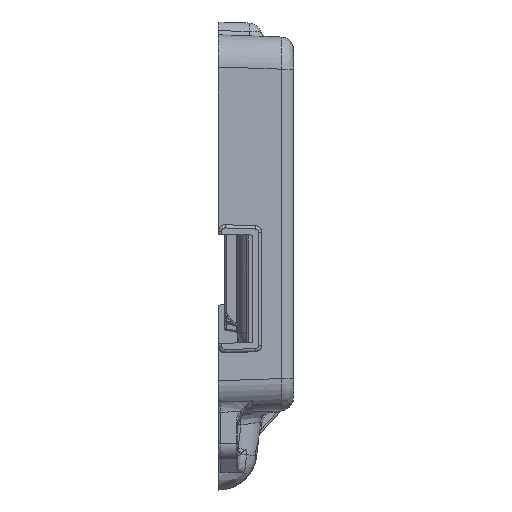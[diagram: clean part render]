
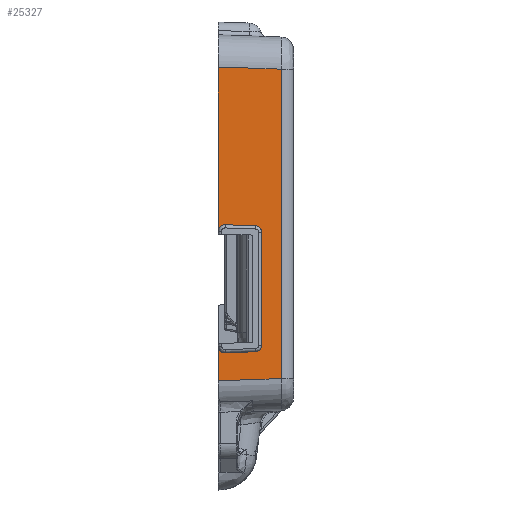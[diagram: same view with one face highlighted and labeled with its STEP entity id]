
A CAD part, left-side view. The second image highlights one B-rep face of the part: STEP entity #25327.
In plain terms, the highlighted planar face has unit normal (-0.999, -0.035, 0).
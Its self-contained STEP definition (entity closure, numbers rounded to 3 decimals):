
#1678=ELLIPSE('',#27179,1.001,1.);
#1679=ELLIPSE('',#27182,1.001,1.);
#1726=ELLIPSE('',#27387,1.001,1.);
#1782=ELLIPSE('',#27618,1.001,1.);
#2276=PLANE('',#27619);
#3230=FACE_OUTER_BOUND('',#4813,.T.);
#4813=EDGE_LOOP('',(#20261,#20262,#20263,#20264,#20265,#20266,#20267,#20268,
#20269,#20270,#20271,#20272));
#5919=LINE('',#38370,#7573);
#6493=LINE('',#44406,#8147);
#6496=LINE('',#44414,#8150);
#6499=LINE('',#44419,#8153);
#6698=LINE('',#48580,#8352);
#6699=LINE('',#48582,#8353);
#6700=LINE('',#48584,#8354);
#6701=LINE('',#48585,#8355);
#7573=VECTOR('',#29770,10.);
#8147=VECTOR('',#31892,10.);
#8150=VECTOR('',#31901,10.);
#8153=VECTOR('',#31906,10.);
#8352=VECTOR('',#32975,10.);
#8353=VECTOR('',#32976,10.);
#8354=VECTOR('',#32977,10.);
#8355=VECTOR('',#32978,10.);
#10180=VERTEX_POINT('',#38367);
#10181=VERTEX_POINT('',#38369);
#11024=VERTEX_POINT('',#44399);
#11025=VERTEX_POINT('',#44401);
#11026=VERTEX_POINT('',#44405);
#11027=VERTEX_POINT('',#44409);
#11028=VERTEX_POINT('',#44413);
#11029=VERTEX_POINT('',#44417);
#11241=VERTEX_POINT('',#46767);
#11471=VERTEX_POINT('',#48579);
#11472=VERTEX_POINT('',#48581);
#11473=VERTEX_POINT('',#48583);
#12734=EDGE_CURVE('',#10181,#10180,#5919,.T.);
#13961=EDGE_CURVE('',#11024,#11025,#1678,.F.);
#13963=EDGE_CURVE('',#11026,#11025,#6493,.T.);
#13965=EDGE_CURVE('',#11026,#11027,#1679,.F.);
#13967=EDGE_CURVE('',#11028,#11027,#6496,.T.);
#13970=EDGE_CURVE('',#11024,#11029,#6499,.T.);
#14291=EDGE_CURVE('',#11028,#11241,#1726,.F.);
#14625=EDGE_CURVE('',#10181,#11029,#1782,.F.);
#14626=EDGE_CURVE('',#11471,#10180,#6698,.T.);
#14627=EDGE_CURVE('',#11472,#11471,#6699,.T.);
#14628=EDGE_CURVE('',#11473,#11472,#6700,.T.);
#14629=EDGE_CURVE('',#11473,#11241,#6701,.T.);
#20261=ORIENTED_EDGE('',*,*,#13970,.T.);
#20262=ORIENTED_EDGE('',*,*,#14625,.F.);
#20263=ORIENTED_EDGE('',*,*,#12734,.T.);
#20264=ORIENTED_EDGE('',*,*,#14626,.F.);
#20265=ORIENTED_EDGE('',*,*,#14627,.F.);
#20266=ORIENTED_EDGE('',*,*,#14628,.F.);
#20267=ORIENTED_EDGE('',*,*,#14629,.T.);
#20268=ORIENTED_EDGE('',*,*,#14291,.F.);
#20269=ORIENTED_EDGE('',*,*,#13967,.T.);
#20270=ORIENTED_EDGE('',*,*,#13965,.F.);
#20271=ORIENTED_EDGE('',*,*,#13963,.T.);
#20272=ORIENTED_EDGE('',*,*,#13961,.F.);
#25327=ADVANCED_FACE('',(#3230),#2276,.T.);
#27179=AXIS2_PLACEMENT_3D('',#44402,#31887,#31888);
#27182=AXIS2_PLACEMENT_3D('',#44410,#31896,#31897);
#27387=AXIS2_PLACEMENT_3D('',#46768,#32390,#32391);
#27618=AXIS2_PLACEMENT_3D('',#48577,#32971,#32972);
#27619=AXIS2_PLACEMENT_3D('',#48578,#32973,#32974);
#29770=DIRECTION('',(0.,0.,-1.));
#31887=DIRECTION('center_axis',(0.999,0.035,0.));
#31888=DIRECTION('ref_axis',(0.035,-0.999,0.));
#31892=DIRECTION('',(0.,0.,-1.));
#31896=DIRECTION('center_axis',(0.999,0.035,0.));
#31897=DIRECTION('ref_axis',(0.035,-0.999,0.));
#31901=DIRECTION('',(0.035,-0.999,-0.035));
#31906=DIRECTION('',(-0.035,0.999,-0.035));
#32390=DIRECTION('center_axis',(0.999,0.035,0.));
#32391=DIRECTION('ref_axis',(-0.035,0.999,0.));
#32971=DIRECTION('center_axis',(0.999,0.035,0.));
#32972=DIRECTION('ref_axis',(-0.035,0.999,0.));
#32973=DIRECTION('center_axis',(-0.999,-0.035,0.));
#32974=DIRECTION('ref_axis',(0.,0.,1.));
#32975=DIRECTION('',(-0.035,0.999,-0.035));
#32976=DIRECTION('',(0.,0.,-1.));
#32977=DIRECTION('',(0.035,-0.999,-0.035));
#32978=DIRECTION('',(0.,0.,-1.));
#38367=CARTESIAN_POINT('',(-0.409,11.7,-53.412));
#38369=CARTESIAN_POINT('',(-0.409,11.7,-48.064));
#38370=CARTESIAN_POINT('',(-0.409,11.7,-58.));
#44399=CARTESIAN_POINT('',(-0.207,5.915,-48.898));
#44401=CARTESIAN_POINT('',(-0.173,4.95,-47.899));
#44402=CARTESIAN_POINT('Origin',(-0.208,5.95,-47.899));
#44405=CARTESIAN_POINT('',(-0.173,4.95,-30.301));
#44406=CARTESIAN_POINT('',(-0.173,4.95,-19.55));
#44409=CARTESIAN_POINT('',(-0.207,5.915,-29.302));
#44410=CARTESIAN_POINT('Origin',(-0.208,5.95,-30.301));
#44413=CARTESIAN_POINT('',(-0.372,10.665,-29.136));
#44414=CARTESIAN_POINT('',(-0.223,6.377,-29.286));
#44417=CARTESIAN_POINT('',(-0.372,10.665,-49.064));
#44419=CARTESIAN_POINT('',(-0.174,4.989,-48.866));
#46767=CARTESIAN_POINT('',(-0.409,11.7,-30.136));
#46768=CARTESIAN_POINT('Origin',(-0.374,10.7,-30.136));
#48577=CARTESIAN_POINT('Origin',(-0.374,10.7,-48.064));
#48578=CARTESIAN_POINT('Origin',(0.,0.,0.));
#48579=CARTESIAN_POINT('',(-0.067,1.93,-53.07));
#48580=CARTESIAN_POINT('',(0.029,-0.836,-52.974));
#48581=CARTESIAN_POINT('',(-0.067,1.93,-4.93));
#48582=CARTESIAN_POINT('',(-0.067,1.93,-14.));
#48583=CARTESIAN_POINT('',(-0.409,11.7,-4.588));
#48584=CARTESIAN_POINT('',(0.009,-0.27,-5.006));
#48585=CARTESIAN_POINT('',(-0.409,11.7,-58.));
